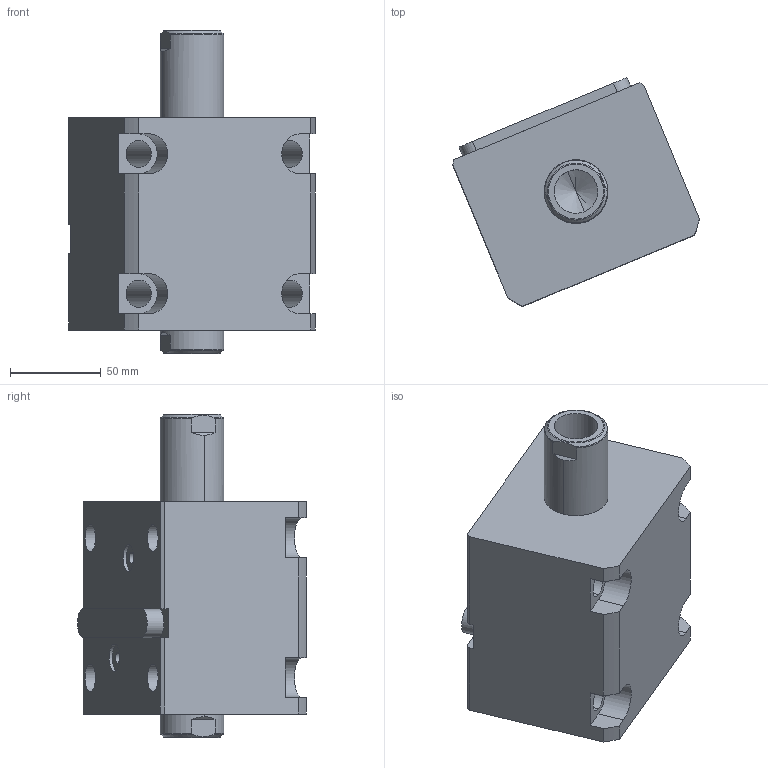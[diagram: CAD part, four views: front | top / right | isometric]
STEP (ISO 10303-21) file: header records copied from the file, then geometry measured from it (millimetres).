
FILE_DESCRIPTION (( 'STEP AP214' ), '1' );
FILE_NAME ('chtb-lwm63x35n_asm.STEP', '2018-05-22T02:16:25', ( 'Windows' ), ( 'Microsoft' ), 'SwSTEP 2.0', 'SolidWorks 2015', '' );
FILE_SCHEMA (( 'AUTOMOTIVE_DESIGN' ));
Length unit declared in the file: millimetre
Products named in the file (5): CHTB-63QG; chtb-lwm63x35n_asm; CHTB-SW63X35NHSG; CHTB-LWM63X35NBT; CHTB-LA63PJ
Assembly tree (4 placements, depth 2):
  chtb-lwm63x35n_asm
    CHTB-63QG
    CHTB-LA63PJ
    CHTB-LWM63X35NBT
    CHTB-SW63X35NHSG
Bounding box: 135.77 x 126.06 x 178 mm (x, y, z)
Volume: 1073647.5 mm3; surface area: 158421.4 mm2
Topology: 4 solids, 4 shells, 186 faces, 543 edges, 367 vertices
Faces by surface type: cylinder 103, plane 47, bspline 12, cone 12, torus 12
Entity records: 18665 total; most frequent: CARTESIAN_POINT 13839, ORIENTED_EDGE 1070, DIRECTION 834, EDGE_CURVE 535, VERTEX_POINT 367, AXIS2_PLACEMENT_3D 318, EDGE_LOOP 212, LINE 198
